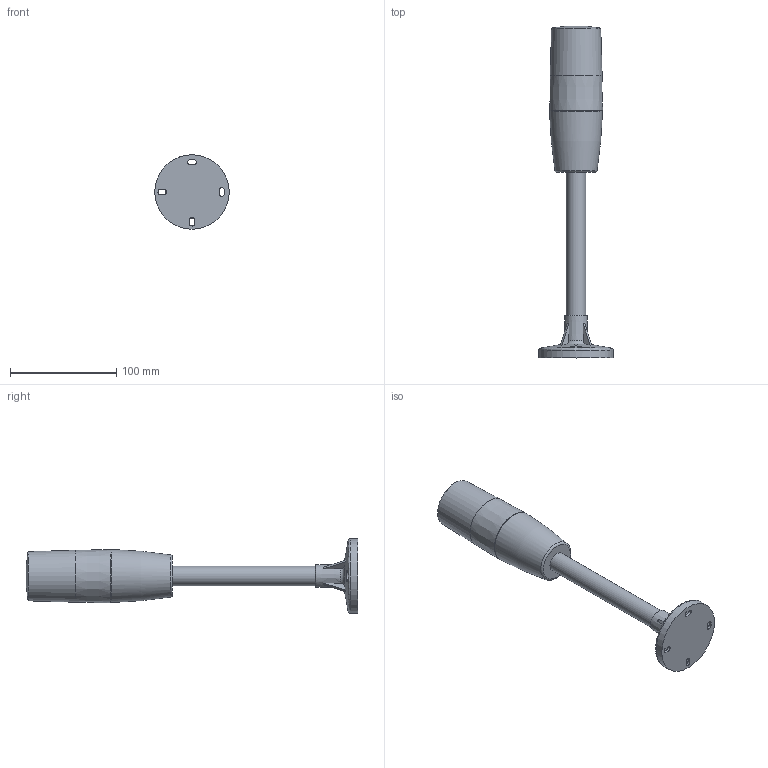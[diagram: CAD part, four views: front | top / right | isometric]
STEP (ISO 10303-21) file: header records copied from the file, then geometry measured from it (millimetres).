
FILE_DESCRIPTION (( 'STEP AP203' ), '1' );
FILE_NAME ('MC50-P.STEP', '2025-05-29T12:59:06', ( '' ), ( '' ), 'SwSTEP 2.0', 'SolidWorks 2024', '' );
FILE_SCHEMA (( 'CONFIG_CONTROL_DESIGN' ));
Length unit declared in the file: millimetre
Products named in the file (3): MC50-SW; Pedestal; MC50-P
Assembly tree (2 placements, depth 2):
  MC50-P
    MC50-SW
    Pedestal
Bounding box: 70 x 312.05 x 70 mm (x, y, z)
Volume: 330292.4 mm3; surface area: 101874.7 mm2
Topology: 5 solids, 5 shells, 81 faces, 192 edges, 128 vertices
Faces by surface type: plane 39, cylinder 18, torus 13, cone 8, bspline 3
Full cylindrical faces by diameter (mm): 11 x4, 18.3 x2, 18.5 x1, 45.5 x2, 70 x1
Entity records: 2912 total; most frequent: CARTESIAN_POINT 988, DIRECTION 336, ORIENTED_EDGE 292, AXIS2_PLACEMENT_3D 148, EDGE_CURVE 146, EDGE_LOOP 124, VERTEX_POINT 110, FACE_OUTER_BOUND 101
